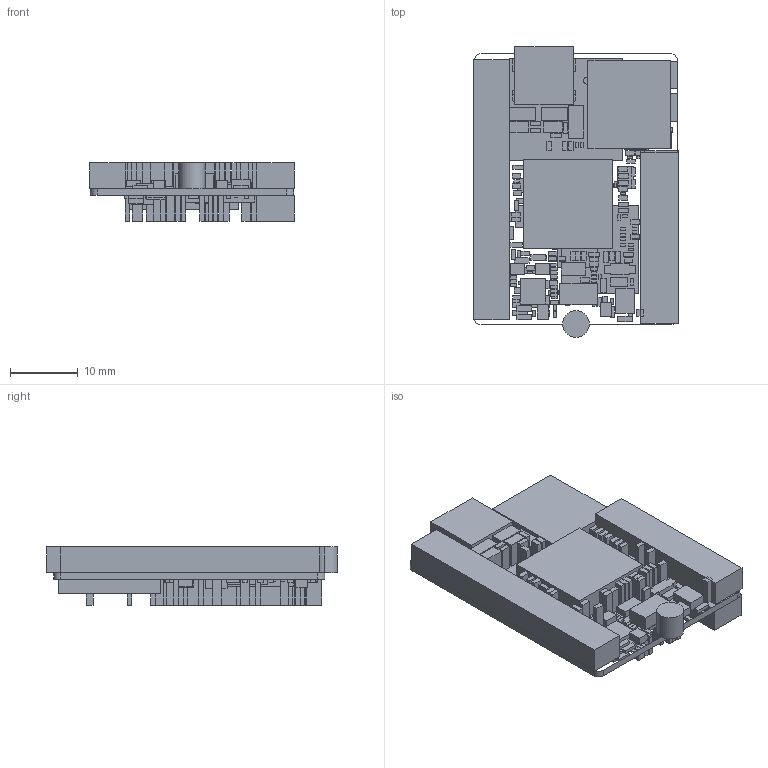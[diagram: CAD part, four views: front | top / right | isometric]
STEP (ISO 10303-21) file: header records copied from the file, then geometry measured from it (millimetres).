
FILE_DESCRIPTION(/* description */ ('PCB Design'),/* implementation_level */ '2;1');
FILE_NAME(/* name */ 'Sololinker-A_V2-20240228',/* time_stamp */ '2024-03-12T22:17:25+08:00',/* author */ ('caoweiwei'),/* organization */ (''),/* preprocessor_version */ 'ST-DEVELOPER v15',/* originating_system */ 'allegro_16.6-2015S112',/* authorisation */ '');
FILE_SCHEMA (('AUTOMOTIVE_DESIGN'));
Length unit declared in the file: millimetre
Products named in the file (47): SOLOLINKER-A_V2-20240228; BOARD; COMPONENTS; SR0402; WSON8_8R00X6R00X0R80_T-1; MARK1_0; C1206; SOD_523; CRY4_2R50X2R00X0R80; LC0402SN; LC0403SN; SOT_23; WB800D80U; SR0603; F1206; SOD123FL-2_9X1_9H1_1; SOD_123; SC0805; SOT_23_6; SOT_563; MSOP10_3X5; HDR-TH_30P-P2_54-V-M-R2-C15-S1; FPC_0M5_15_OS; TF-CKT01-009D; KEY_3X4X2; C0603; LED0402; IPEX_4MM_3MM; SON10_2R50X1R00X0R50; USB-C-SMD_TYPEC-324G-BCP24; FPC_0M5_40_OS; XTAL2-3_3X1_6H1_0; HOLE_C2R00_C3R50; SR0201; R0402; R0201; IND_2016; L0402; SC0603; SC0201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
Assembly tree (202 placements, depth 3):
  SOLOLINKER-A_V2-20240228
    BOARD
    COMPONENTS
      SR0402  x3
      WSON8_8R00X6R00X0R80_T-1
      MARK1_0  x2
      C1206
      SOD_523  x2
      CRY4_2R50X2R00X0R80
      LC0402SN  x2
      LC0403SN  x2
      SOT_23
      WB800D80U
      SR0603
      F1206
      SOD123FL-2_9X1_9H1_1
      SOD_123
      SC0805
      SOT_23_6
      SOT_563
      MSOP10_3X5
      HDR-TH_30P-P2_54-V-M-R2-C15-S1
      FPC_0M5_15_OS  x2
      TF-CKT01-009D
      KEY_3X4X2
      C0603
      LED0402  x2
      IPEX_4MM_3MM  x2
      SON10_2R50X1R00X0R50  x2
      USB-C-SMD_TYPEC-324G-BCP24
      FPC_0M5_40_OS
      XTAL2-3_3X1_6H1_0
      HOLE_C2R00_C3R50
      SR0201  x19
      R0402  x2
      R0201  x41
      IND_2016  x5
      L0402  x2
      SC0603  x11
      SC0201  x10
      C0402  x17
      C0201  x47
      SOT_323  x2
      SOT_23_5
      QFN20_3R00X3R00X0R85_T
      QFN128_12R3X12R3X0R90_T
      BGA153_13R10X11R60X1R00_2L
Bounding box: 30.23 x 42.91 x 8.64 mm (x, y, z)
Surface area: 9099 mm2 (no closed solid volume)
Topology: 0 solids, 201 shells, 1249 faces, 2760 edges, 1698 vertices
Faces by surface type: plane 1227, cylinder 22
Entity records: 10647 total; most frequent: ORIENTED_EDGE 1338, DIRECTION 1282, CARTESIAN_POINT 819, AXIS2_PLACEMENT_3D 761, EDGE_CURVE 722, VECTOR 678, LINE 678, VERTEX_POINT 552
